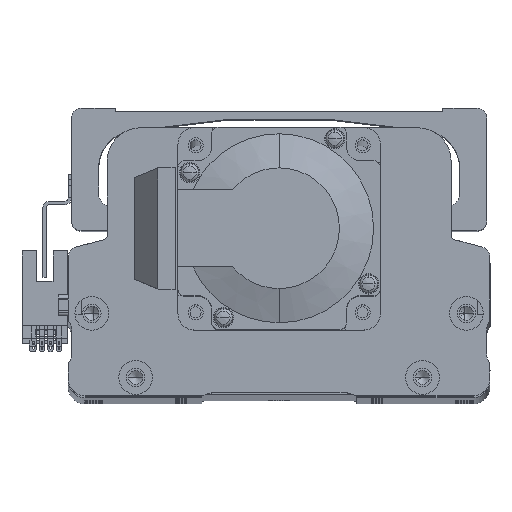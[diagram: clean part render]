
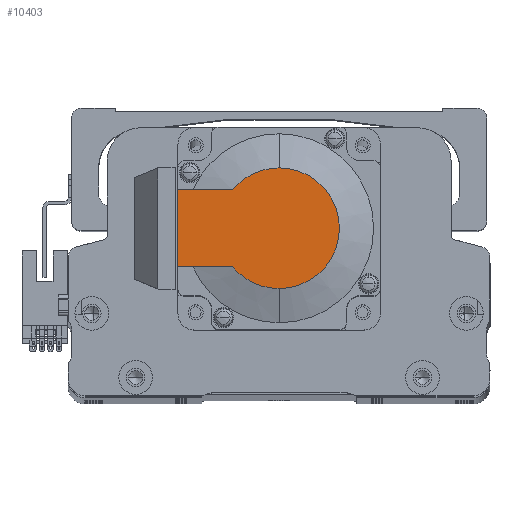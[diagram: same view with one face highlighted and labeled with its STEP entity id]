
A CAD part, top view. The second image highlights one B-rep face of the part: STEP entity #10403.
In plain terms, the highlighted planar face has unit normal (0, 0, 1) as drawn and (-1, 0, 0) by its records, which use the part's own axes.
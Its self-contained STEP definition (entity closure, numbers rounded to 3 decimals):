
#464 = ORIENTED_EDGE ( 'NONE', *, *, #8228, .F. ) ;
#1668 = VERTEX_POINT ( 'NONE', #29876 ) ;
#1832 = DIRECTION ( 'NONE',  ( -1., 0., 0. ) ) ;
#3272 = ORIENTED_EDGE ( 'NONE', *, *, #38429, .T. ) ;
#7492 = DIRECTION ( 'NONE',  ( -1., 0., 0. ) ) ;
#7678 = CARTESIAN_POINT ( 'NONE',  ( -118.5, -8.941, -11.45 ) ) ;
#8228 = EDGE_CURVE ( 'NONE', #47510, #1668, #34927, .T. ) ;
#8553 = AXIS2_PLACEMENT_3D ( 'NONE', #27206, #1832, #31414 ) ;
#9141 = AXIS2_PLACEMENT_3D ( 'NONE', #47454, #22136, #51735 ) ;
#10403 = ADVANCED_FACE ( 'NONE', ( #47828 ), #48079, .T. ) ;
#10714 = VERTEX_POINT ( 'NONE', #16560 ) ;
#11850 = CARTESIAN_POINT ( 'NONE',  ( -118.5, 0., 0. ) ) ;
#12451 = VECTOR ( 'NONE', #42705, 1000. ) ;
#13130 = CIRCLE ( 'NONE', #45966, 17.881 ) ;
#14724 = CARTESIAN_POINT ( 'NONE',  ( -118.5, 13.735, -11.45 ) ) ;
#16052 = DIRECTION ( 'NONE',  ( 0., 0., -1. ) ) ;
#16560 = CARTESIAN_POINT ( 'NONE',  ( -118.5, 13.735, 11.45 ) ) ;
#17329 = CARTESIAN_POINT ( 'NONE',  ( -118.5, 30., 25. ) ) ;
#19730 = LINE ( 'NONE', #7678, #30983 ) ;
#22136 = DIRECTION ( 'NONE',  ( -1., 0., 0. ) ) ;
#22951 = CARTESIAN_POINT ( 'NONE',  ( -118.5, 30., -11.45 ) ) ;
#24831 = LINE ( 'NONE', #28415, #34738 ) ;
#25801 = EDGE_CURVE ( 'NONE', #26695, #39208, #13130, .T. ) ;
#26695 = VERTEX_POINT ( 'NONE', #44399 ) ;
#27094 = EDGE_CURVE ( 'NONE', #39208, #10714, #43543, .T. ) ;
#27206 = CARTESIAN_POINT ( 'NONE',  ( -118.5, -8.941, 0. ) ) ;
#28337 = ORIENTED_EDGE ( 'NONE', *, *, #27094, .T. ) ;
#28415 = CARTESIAN_POINT ( 'NONE',  ( -118.5, 0., 11.45 ) ) ;
#29876 = CARTESIAN_POINT ( 'NONE',  ( -118.5, 30., 11.45 ) ) ;
#30983 = VECTOR ( 'NONE', #41542, 1000. ) ;
#31414 = DIRECTION ( 'NONE',  ( 0., 0., 1. ) ) ;
#32852 = CARTESIAN_POINT ( 'NONE',  ( -118.5, 0., 0. ) ) ;
#34250 = ORIENTED_EDGE ( 'NONE', *, *, #49193, .T. ) ;
#34738 = VECTOR ( 'NONE', #49676, 1000. ) ;
#34927 = LINE ( 'NONE', #17329, #12451 ) ;
#35807 = EDGE_CURVE ( 'NONE', #1668, #10714, #24831, .T. ) ;
#37087 = DIRECTION ( 'NONE',  ( 0., 0., -1. ) ) ;
#37797 = CARTESIAN_POINT ( 'NONE',  ( -118.5, 0., 17.881 ) ) ;
#38429 = EDGE_CURVE ( 'NONE', #47510, #38922, #19730, .T. ) ;
#38922 = VERTEX_POINT ( 'NONE', #14724 ) ;
#39208 = VERTEX_POINT ( 'NONE', #37797 ) ;
#41387 = DIRECTION ( 'NONE',  ( -1., 0., 0. ) ) ;
#41542 = DIRECTION ( 'NONE',  ( 0., -1., 0. ) ) ;
#42692 = ORIENTED_EDGE ( 'NONE', *, *, #35807, .F. ) ;
#42705 = DIRECTION ( 'NONE',  ( 0., 0., 1. ) ) ;
#43543 = CIRCLE ( 'NONE', #9141, 17.881 ) ;
#44399 = CARTESIAN_POINT ( 'NONE',  ( -118.5, 0., -17.881 ) ) ;
#44580 = AXIS2_PLACEMENT_3D ( 'NONE', #11850, #41387, #16052 ) ;
#45966 = AXIS2_PLACEMENT_3D ( 'NONE', #32852, #7492, #37087 ) ;
#47454 = CARTESIAN_POINT ( 'NONE',  ( -118.5, 0., 0. ) ) ;
#47510 = VERTEX_POINT ( 'NONE', #22951 ) ;
#47828 = FACE_OUTER_BOUND ( 'NONE', #54071, .T. ) ;
#48079 = PLANE ( 'NONE',  #8553 ) ;
#49193 = EDGE_CURVE ( 'NONE', #38922, #26695, #50658, .T. ) ;
#49387 = ORIENTED_EDGE ( 'NONE', *, *, #25801, .T. ) ;
#49676 = DIRECTION ( 'NONE',  ( 0., -1., 0. ) ) ;
#50658 = CIRCLE ( 'NONE', #44580, 17.881 ) ;
#51735 = DIRECTION ( 'NONE',  ( 0., 0., -1. ) ) ;
#54071 = EDGE_LOOP ( 'NONE', ( #3272, #34250, #49387, #28337, #42692, #464 ) ) ;
